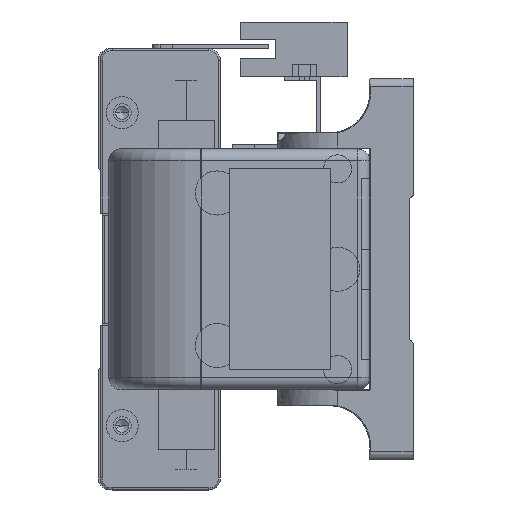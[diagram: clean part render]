
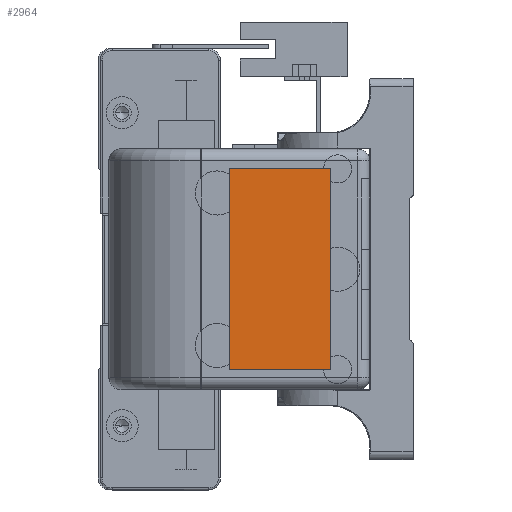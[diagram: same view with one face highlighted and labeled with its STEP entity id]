
A CAD part, left-side view. The second image highlights one B-rep face of the part: STEP entity #2964.
In plain terms, the highlighted planar face has unit normal (-1, 0, 0) as drawn and (1, 0, 0) by its records, which use the part's own axes.
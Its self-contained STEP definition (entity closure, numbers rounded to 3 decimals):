
#1649 = ORIENTED_EDGE ( 'NONE', *, *, #21657, .T. ) ;
#1669 = DIRECTION ( 'NONE',  ( 0., 0., -1. ) ) ;
#1702 = DIRECTION ( 'NONE',  ( 1., 0., 0. ) ) ;
#1831 = CARTESIAN_POINT ( 'NONE',  ( 23.3, 0., 0. ) ) ;
#2122 = AXIS2_PLACEMENT_3D ( 'NONE', #1831, #1702, #1669 ) ;
#2224 = PLANE ( 'NONE',  #2122 ) ;
#2964 = ADVANCED_FACE ( 'N', ( #7833 ), #2224, .T. ) ;
#3151 = VERTEX_POINT ( 'NONE', #26645 ) ;
#4076 = DIRECTION ( 'NONE',  ( 0., 0., 1. ) ) ;
#4312 = VERTEX_POINT ( 'NONE', #22475 ) ;
#5767 = VERTEX_POINT ( 'NONE', #17503 ) ;
#7564 = VECTOR ( 'NONE', #28639, 1000. ) ;
#7833 = FACE_OUTER_BOUND ( 'NONE', #26743, .T. ) ;
#7898 = ORIENTED_EDGE ( 'NONE', *, *, #16155, .T. ) ;
#8104 = VECTOR ( 'NONE', #12565, 1000. ) ;
#10173 = CARTESIAN_POINT ( 'NONE',  ( 23.3, 35., 55. ) ) ;
#12183 = CARTESIAN_POINT ( 'NONE',  ( 23.3, 9.83, 55. ) ) ;
#12565 = DIRECTION ( 'NONE',  ( 0., -1., 0. ) ) ;
#13443 = VECTOR ( 'NONE', #4076, 1000. ) ;
#15118 = LINE ( 'NONE', #10173, #8104 ) ;
#15344 = LINE ( 'NONE', #15909, #20888 ) ;
#15909 = CARTESIAN_POINT ( 'NONE',  ( 23.3, 35., 4.898 ) ) ;
#16155 = EDGE_CURVE ( 'NONE', #3151, #27143, #15118, .T. ) ;
#17244 = ORIENTED_EDGE ( 'NONE', *, *, #18818, .T. ) ;
#17503 = CARTESIAN_POINT ( 'NONE',  ( 23.3, 9.83, 4.898 ) ) ;
#18258 = DIRECTION ( 'NONE',  ( 0., 1., 0. ) ) ;
#18818 = EDGE_CURVE ( 'NONE', #27143, #5767, #25669, .T. ) ;
#20581 = CARTESIAN_POINT ( 'NONE',  ( 23.3, 35., 55. ) ) ;
#20888 = VECTOR ( 'NONE', #18258, 1000. ) ;
#21657 = EDGE_CURVE ( 'NONE', #5767, #4312, #15344, .T. ) ;
#22475 = CARTESIAN_POINT ( 'NONE',  ( 23.3, 35., 4.898 ) ) ;
#22915 = EDGE_CURVE ( 'NONE', #4312, #3151, #25979, .T. ) ;
#23778 = CARTESIAN_POINT ( 'NONE',  ( 23.3, 9.83, 55. ) ) ;
#24353 = ORIENTED_EDGE ( 'NONE', *, *, #22915, .T. ) ;
#25669 = LINE ( 'NONE', #12183, #7564 ) ;
#25979 = LINE ( 'NONE', #20581, #13443 ) ;
#26645 = CARTESIAN_POINT ( 'NONE',  ( 23.3, 35., 55. ) ) ;
#26743 = EDGE_LOOP ( 'NONE', ( #7898, #17244, #1649, #24353 ) ) ;
#27143 = VERTEX_POINT ( 'NONE', #23778 ) ;
#28639 = DIRECTION ( 'NONE',  ( 0., 0., -1. ) ) ;
